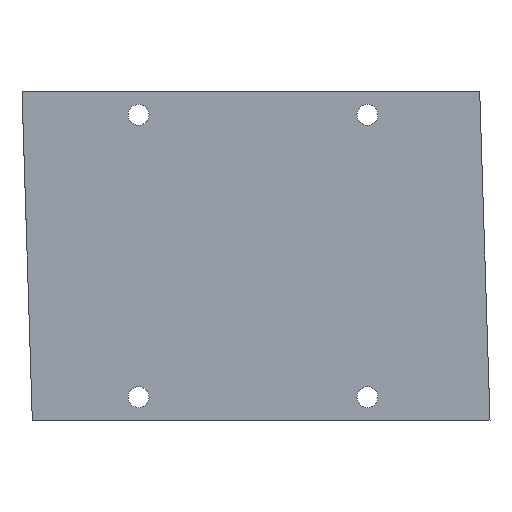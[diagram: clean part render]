
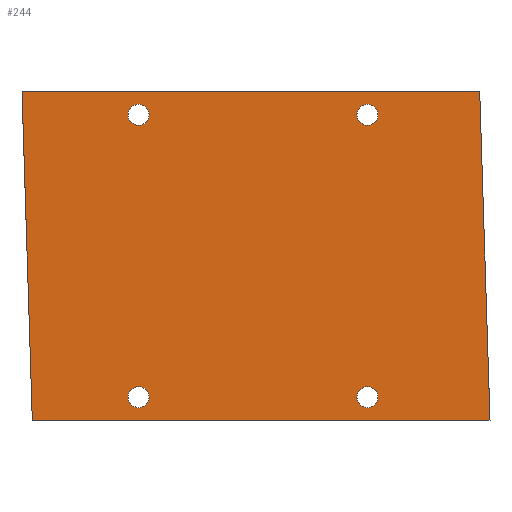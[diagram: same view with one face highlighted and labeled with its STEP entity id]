
A CAD part, front view. The second image highlights one B-rep face of the part: STEP entity #244.
In plain terms, the highlighted planar face has unit normal (0, -1, 0).
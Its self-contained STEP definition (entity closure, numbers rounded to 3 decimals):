
#29 = VERTEX_POINT ( 'NONE', #638 ) ;
#60 = VERTEX_POINT ( 'NONE', #717 ) ;
#64 = EDGE_CURVE ( 'NONE', #29, #60, #681, .T. ) ;
#76 = EDGE_CURVE ( 'NONE', #2565, #2567, #749, .T. ) ;
#80 = EDGE_CURVE ( 'NONE', #2567, #86, #800, .T. ) ;
#86 = VERTEX_POINT ( 'NONE', #772 ) ;
#95 = VERTEX_POINT ( 'NONE', #827 ) ;
#116 = EDGE_CURVE ( 'NONE', #95, #86, #810, .T. ) ;
#184 = EDGE_CURVE ( 'NONE', #2525, #2520, #935, .T. ) ;
#218 = EDGE_LOOP ( 'NONE', ( #220, #227 ) ) ;
#219 = EDGE_CURVE ( 'NONE', #2530, #2518, #1131, .T. ) ;
#220 = ORIENTED_EDGE ( 'NONE', *, *, #226, .T. ) ;
#221 = EDGE_CURVE ( 'NONE', #2520, #2525, #1092, .T. ) ;
#222 = EDGE_LOOP ( 'NONE', ( #224, #223 ) ) ;
#223 = ORIENTED_EDGE ( 'NONE', *, *, #184, .T. ) ;
#224 = ORIENTED_EDGE ( 'NONE', *, *, #221, .T. ) ;
#225 = ORIENTED_EDGE ( 'NONE', *, *, #230, .T. ) ;
#226 = EDGE_CURVE ( 'NONE', #60, #29, #1118, .T. ) ;
#227 = ORIENTED_EDGE ( 'NONE', *, *, #64, .T. ) ;
#228 = EDGE_LOOP ( 'NONE', ( #229, #284, #289, #239 ) ) ;
#229 = ORIENTED_EDGE ( 'NONE', *, *, #76, .F. ) ;
#230 = EDGE_CURVE ( 'NONE', #572, #575, #1110, .T. ) ;
#231 = EDGE_LOOP ( 'NONE', ( #225, #283 ) ) ;
#239 = ORIENTED_EDGE ( 'NONE', *, *, #80, .F. ) ;
#240 = ORIENTED_EDGE ( 'NONE', *, *, #219, .T. ) ;
#244 = ADVANCED_FACE ( 'NONE', ( #1097, #1119, #1103, #1128, #1125 ), #1163, .F. ) ;
#245 = EDGE_LOOP ( 'NONE', ( #240, #294 ) ) ;
#257 = EDGE_CURVE ( 'NONE', #2565, #95, #1136, .T. ) ;
#283 = ORIENTED_EDGE ( 'NONE', *, *, #570, .T. ) ;
#284 = ORIENTED_EDGE ( 'NONE', *, *, #257, .T. ) ;
#289 = ORIENTED_EDGE ( 'NONE', *, *, #116, .T. ) ;
#294 = ORIENTED_EDGE ( 'NONE', *, *, #2521, .T. ) ;
#570 = EDGE_CURVE ( 'NONE', #575, #572, #1960, .T. ) ;
#572 = VERTEX_POINT ( 'NONE', #2059 ) ;
#575 = VERTEX_POINT ( 'NONE', #2058 ) ;
#638 = CARTESIAN_POINT ( 'NONE',  ( 907.661, 0., -13.208 ) ) ;
#681 = CIRCLE ( 'NONE', #763, 2.75 ) ;
#710 = DIRECTION ( 'NONE',  ( 0., 1., 0. ) ) ;
#712 = CARTESIAN_POINT ( 'NONE',  ( 907.661, 0., -10.458 ) ) ;
#717 = CARTESIAN_POINT ( 'NONE',  ( 907.661, 0., -7.708 ) ) ;
#744 = DIRECTION ( 'NONE',  ( 1., 0., 0. ) ) ;
#745 = VECTOR ( 'NONE', #744, 1000. ) ;
#748 = CARTESIAN_POINT ( 'NONE',  ( 821.753, 0., -4.458 ) ) ;
#749 = LINE ( 'NONE', #748, #745 ) ;
#762 = DIRECTION ( 'NONE',  ( 0., 0., 1. ) ) ;
#763 = AXIS2_PLACEMENT_3D ( 'NONE', #712, #710, #762 ) ;
#772 = CARTESIAN_POINT ( 'NONE',  ( 999.794, 0., -90.458 ) ) ;
#793 = DIRECTION ( 'NONE',  ( 0.031, 0., -1. ) ) ;
#794 = VECTOR ( 'NONE', #793, 1000. ) ;
#795 = CARTESIAN_POINT ( 'NONE',  ( 998.268, 0., -41.91 ) ) ;
#800 = LINE ( 'NONE', #795, #794 ) ;
#809 = CARTESIAN_POINT ( 'NONE',  ( 821.753, 0., -90.458 ) ) ;
#810 = LINE ( 'NONE', #809, #829 ) ;
#813 = DIRECTION ( 'NONE',  ( 1., 0., 0. ) ) ;
#827 = CARTESIAN_POINT ( 'NONE',  ( 879.794, 0., -90.458 ) ) ;
#829 = VECTOR ( 'NONE', #813, 1000. ) ;
#935 = CIRCLE ( 'NONE', #984, 2.75 ) ;
#976 = DIRECTION ( 'NONE',  ( 0., 0., 1. ) ) ;
#977 = DIRECTION ( 'NONE',  ( 0., 1., 0. ) ) ;
#984 = AXIS2_PLACEMENT_3D ( 'NONE', #985, #977, #976 ) ;
#985 = CARTESIAN_POINT ( 'NONE',  ( 967.661, 0., -84.458 ) ) ;
#1091 = CARTESIAN_POINT ( 'NONE',  ( 967.661, 0., -10.458 ) ) ;
#1092 = CIRCLE ( 'NONE', #1124, 2.75 ) ;
#1097 = FACE_BOUND ( 'NONE', #245, .T. ) ;
#1103 = FACE_BOUND ( 'NONE', #218, .T. ) ;
#1104 = AXIS2_PLACEMENT_3D ( 'NONE', #1129, #1158, #1157 ) ;
#1106 = DIRECTION ( 'NONE',  ( 0., 0., 1. ) ) ;
#1107 = DIRECTION ( 'NONE',  ( 0., 1., 0. ) ) ;
#1108 = CARTESIAN_POINT ( 'NONE',  ( 907.661, 0., -84.458 ) ) ;
#1109 = AXIS2_PLACEMENT_3D ( 'NONE', #1108, #1107, #1106 ) ;
#1110 = CIRCLE ( 'NONE', #1109, 2.75 ) ;
#1111 = DIRECTION ( 'NONE',  ( 0., 0., 1. ) ) ;
#1112 = DIRECTION ( 'NONE',  ( 0., 1., 0. ) ) ;
#1113 = CARTESIAN_POINT ( 'NONE',  ( 907.661, 0., -10.458 ) ) ;
#1115 = AXIS2_PLACEMENT_3D ( 'NONE', #1113, #1112, #1111 ) ;
#1116 = DIRECTION ( 'NONE',  ( 0., 0., 1. ) ) ;
#1117 = DIRECTION ( 'NONE',  ( 0., 1., 0. ) ) ;
#1118 = CIRCLE ( 'NONE', #1115, 2.75 ) ;
#1119 = FACE_BOUND ( 'NONE', #222, .T. ) ;
#1120 = CARTESIAN_POINT ( 'NONE',  ( 967.661, 0., -84.458 ) ) ;
#1121 = DIRECTION ( 'NONE',  ( 0., 0., 1. ) ) ;
#1122 = DIRECTION ( 'NONE',  ( 0., 1., 0. ) ) ;
#1123 = AXIS2_PLACEMENT_3D ( 'NONE', #1091, #1122, #1121 ) ;
#1124 = AXIS2_PLACEMENT_3D ( 'NONE', #1120, #1117, #1116 ) ;
#1125 = FACE_OUTER_BOUND ( 'NONE', #228, .T. ) ;
#1128 = FACE_BOUND ( 'NONE', #231, .T. ) ;
#1129 = CARTESIAN_POINT ( 'NONE',  ( 821.753, 0., -47.458 ) ) ;
#1131 = CIRCLE ( 'NONE', #1123, 2.75 ) ;
#1133 = DIRECTION ( 'NONE',  ( 0.031, 0., -1. ) ) ;
#1134 = VECTOR ( 'NONE', #1133, 1000. ) ;
#1135 = CARTESIAN_POINT ( 'NONE',  ( 878.386, 0., -45.678 ) ) ;
#1136 = LINE ( 'NONE', #1135, #1134 ) ;
#1157 = DIRECTION ( 'NONE',  ( 0., 0., 1. ) ) ;
#1158 = DIRECTION ( 'NONE',  ( 0., 1., 0. ) ) ;
#1163 = PLANE ( 'NONE',  #1104 ) ;
#1957 = AXIS2_PLACEMENT_3D ( 'NONE', #2062, #2061, #2060 ) ;
#1960 = CIRCLE ( 'NONE', #1957, 2.75 ) ;
#2058 = CARTESIAN_POINT ( 'NONE',  ( 907.661, 0., -87.208 ) ) ;
#2059 = CARTESIAN_POINT ( 'NONE',  ( 907.661, 0., -81.708 ) ) ;
#2060 = DIRECTION ( 'NONE',  ( 0., 0., 1. ) ) ;
#2061 = DIRECTION ( 'NONE',  ( 0., 1., 0. ) ) ;
#2062 = CARTESIAN_POINT ( 'NONE',  ( 907.661, 0., -84.458 ) ) ;
#2284 = CARTESIAN_POINT ( 'NONE',  ( 967.661, 0., -81.708 ) ) ;
#2285 = CARTESIAN_POINT ( 'NONE',  ( 967.661, 0., -13.208 ) ) ;
#2295 = CIRCLE ( 'NONE', #2321, 2.75 ) ;
#2314 = CARTESIAN_POINT ( 'NONE',  ( 967.661, 0., -87.208 ) ) ;
#2318 = DIRECTION ( 'NONE',  ( 0., 0., 1. ) ) ;
#2319 = DIRECTION ( 'NONE',  ( 0., 1., 0. ) ) ;
#2320 = CARTESIAN_POINT ( 'NONE',  ( 967.661, 0., -10.458 ) ) ;
#2321 = AXIS2_PLACEMENT_3D ( 'NONE', #2320, #2319, #2318 ) ;
#2349 = CARTESIAN_POINT ( 'NONE',  ( 967.661, 0., -7.708 ) ) ;
#2429 = CARTESIAN_POINT ( 'NONE',  ( 877.091, 0., -4.458 ) ) ;
#2437 = CARTESIAN_POINT ( 'NONE',  ( 997.091, 0., -4.458 ) ) ;
#2518 = VERTEX_POINT ( 'NONE', #2285 ) ;
#2520 = VERTEX_POINT ( 'NONE', #2284 ) ;
#2521 = EDGE_CURVE ( 'NONE', #2518, #2530, #2295, .T. ) ;
#2525 = VERTEX_POINT ( 'NONE', #2314 ) ;
#2530 = VERTEX_POINT ( 'NONE', #2349 ) ;
#2565 = VERTEX_POINT ( 'NONE', #2429 ) ;
#2567 = VERTEX_POINT ( 'NONE', #2437 ) ;
